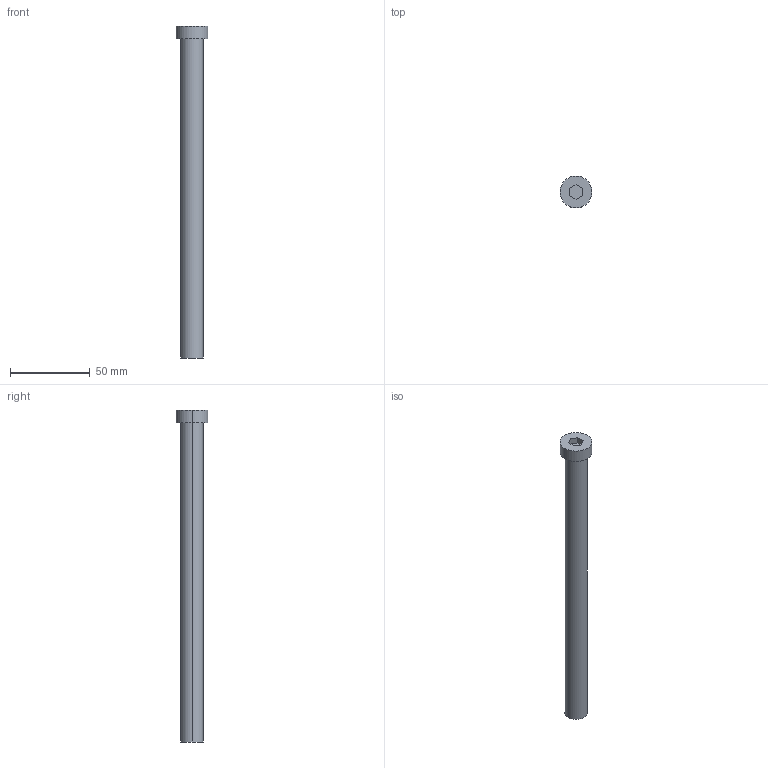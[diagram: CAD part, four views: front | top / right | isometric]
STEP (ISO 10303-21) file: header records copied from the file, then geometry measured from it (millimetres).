
FILE_DESCRIPTION (( 'STEP AP214' ), '1' );
FILE_NAME ('BruyRubio_TGH__14_x_200_-_M-10.STEP', '2019-12-22T23:37:02', ( '' ), ( '' ), 'SwSTEP 2.0', 'SolidWorks 2017', '' );
FILE_SCHEMA (( 'AUTOMOTIVE_DESIGN' ));
Length unit declared in the file: millimetre
Products named in the file (1): BruyRubio_TGH__14_x_200_-_M-10
Bounding box: 20 x 20 x 208 mm (x, y, z)
Volume: 31784.4 mm3; surface area: 11770.4 mm2
Topology: 2 solids, 2 shells, 27 faces, 58 edges, 37 vertices
Faces by surface type: plane 13, cylinder 12, cone 2
Entity records: 1070 total; most frequent: DIRECTION 136, CARTESIAN_POINT 121, ORIENTED_EDGE 112, EDGE_CURVE 56, AXIS2_PLACEMENT_3D 52, VERTEX_POINT 37, EDGE_LOOP 33, LINE 32
